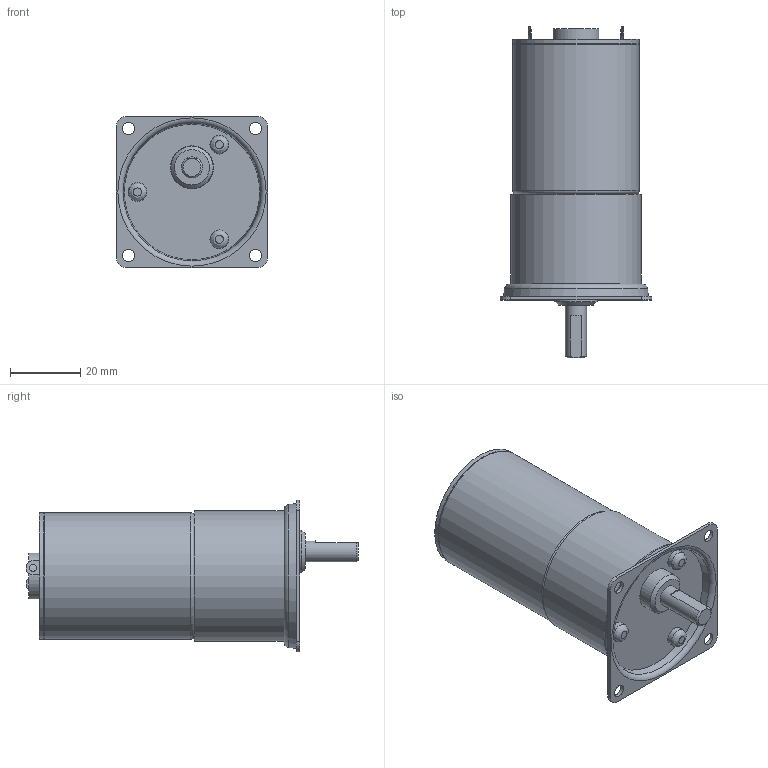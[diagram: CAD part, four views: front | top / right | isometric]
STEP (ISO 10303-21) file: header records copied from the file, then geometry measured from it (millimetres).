
FILE_DESCRIPTION((''),'2;1');
FILE_NAME('C:\Documents and Settings\SSEGAWA\デスクトップ\TP-3644D-PG-4.STP','2013-07-25T17:48:42',('SSEGAWA'),(''),'Autodesk Inventor 2010','Autodesk Inventor 2010','');
FILE_SCHEMA(('CONFIG_CONTROL_DESIGN'));
Length unit declared in the file: millimetre
Products named in the file (1): tp_3644dh_pg-4_Shrinkwrap_1
Bounding box: 43 x 94.3 x 43 mm (x, y, z)
Volume: 75513.4 mm3; surface area: 14402.5 mm2
Topology: 1 solids, 12 shells, 102 faces, 204 edges, 136 vertices
Faces by surface type: plane 46, cylinder 26, bspline 23, cone 4, torus 3
Full cylindrical faces by diameter (mm): 3 x1, 3.5 x1, 4 x3, 5.3 x3, 6 x1, 12 x1, 12.2 x1, 13 x1, 35.6 x1, 36 x2, 37 x1
Entity records: 2762 total; most frequent: CARTESIAN_POINT 828, DIRECTION 385, ORIENTED_EDGE 272, AXIS2_PLACEMENT_3D 171, EDGE_LOOP 169, EDGE_CURVE 136, VERTEX_POINT 113, STYLED_ITEM 103
